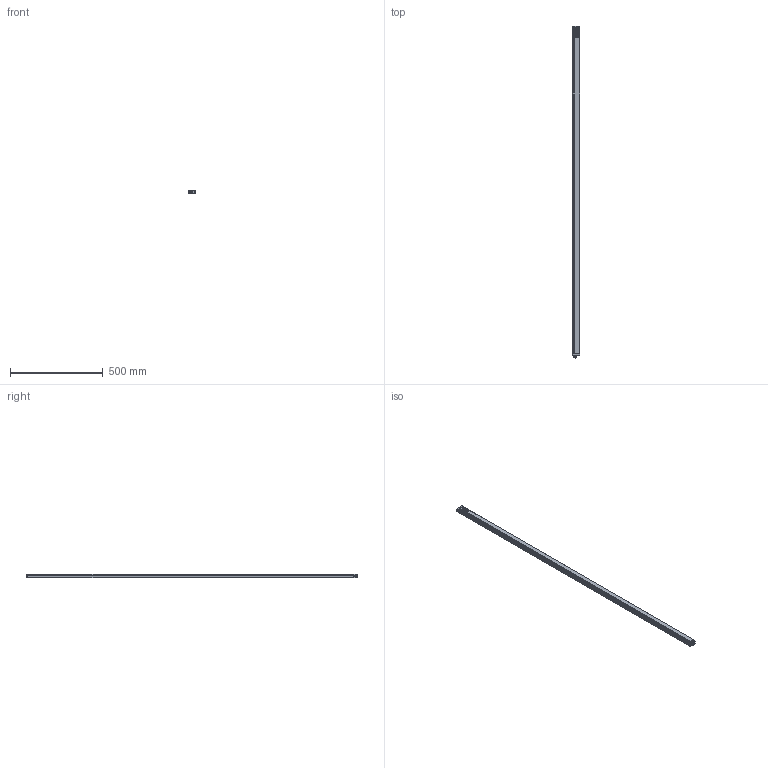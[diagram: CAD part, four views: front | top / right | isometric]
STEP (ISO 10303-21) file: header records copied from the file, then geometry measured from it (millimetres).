
FILE_DESCRIPTION(/* description */ (''),/* implementation_level */ '2;1');
FILE_NAME(/* name */ 'C:\Users\andre\SynologyDrive\Optoscan\Libreria Componenti\00 - Barriere\Barriera sorgente\Argo_1760_TX.stp',/* time_stamp */ '2021-04-22T10:27:16+02:00',/* author */ ('andre'),/* organization */ (''),/* preprocessor_version */ 'ST-DEVELOPER v18',/* originating_system */ 'Autodesk Inventor 2020',/* authorisation */ '');
FILE_SCHEMA (('AUTOMOTIVE_DESIGN { 1 0 10303 214 3 1 1 }'));
Length unit declared in the file: millimetre
Products named in the file (1): Argo_1760_TX
Bounding box: 40.5 x 1793.3 x 20.75 mm (x, y, z)
Volume: 354011.1 mm3; surface area: 465474.7 mm2
Topology: 1 solids, 1 shells, 696 faces, 1911 edges, 1225 vertices
Faces by surface type: plane 321, cylinder 195, bspline 94, torus 72, cone 8, sphere 6
Full cylindrical faces by diameter (mm): 1 x4, 2.459 x4, 2.5 x4, 3 x4, 3.5 x4, 5.5 x4, 8 x1, 10.5 x2, 11.75 x9, 15.7 x1, 17.5 x1
Entity records: 30770 total; most frequent: CARTESIAN_POINT 12670, ORIENTED_EDGE 3806, DIRECTION 3415, EDGE_CURVE 1903, VERTEX_POINT 1225, AXIS2_PLACEMENT_3D 1193, LINE 1029, VECTOR 1029
